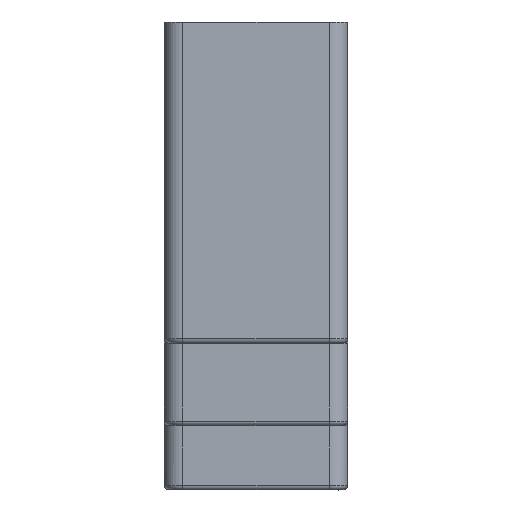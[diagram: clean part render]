
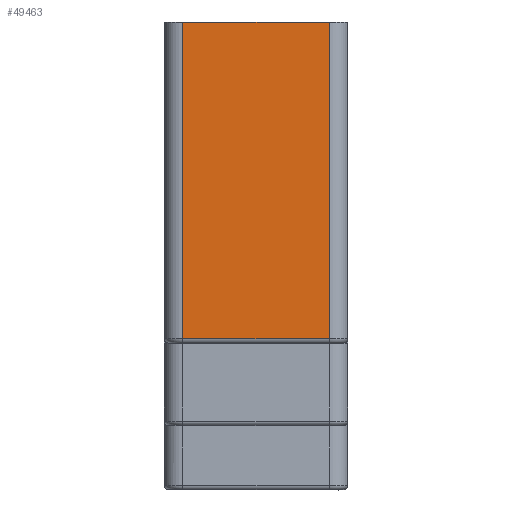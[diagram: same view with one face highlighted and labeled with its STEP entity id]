
A CAD part, left-side view. The second image highlights one B-rep face of the part: STEP entity #49463.
In plain terms, the highlighted planar face has unit normal (-1, 0, 0).
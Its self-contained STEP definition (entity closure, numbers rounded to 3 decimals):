
#1623 = DIRECTION ( 'NONE',  ( 0., 0., -1. ) ) ;
#3546 = CARTESIAN_POINT ( 'NONE',  ( 0., 18., 0. ) ) ;
#6687 = VECTOR ( 'NONE', #32339, 1000. ) ;
#19431 = ORIENTED_EDGE ( 'NONE', *, *, #25854, .T. ) ;
#25854 = EDGE_CURVE ( 'NONE', #62719, #78816, #56384, .T. ) ;
#27221 = CARTESIAN_POINT ( 'NONE',  ( 0., 18., -34.5 ) ) ;
#29908 = DIRECTION ( 'NONE',  ( -1., 0., 0. ) ) ;
#30987 = CARTESIAN_POINT ( 'NONE',  ( 0., 0., 0. ) ) ;
#31977 = PLANE ( 'NONE',  #85483 ) ;
#32339 = DIRECTION ( 'NONE',  ( 0., -1., 0. ) ) ;
#32728 = VERTEX_POINT ( 'NONE', #57753 ) ;
#33594 = ORIENTED_EDGE ( 'NONE', *, *, #79949, .F. ) ;
#36173 = VERTEX_POINT ( 'NONE', #63704 ) ;
#38428 = EDGE_CURVE ( 'NONE', #62719, #32728, #54777, .T. ) ;
#39064 = VECTOR ( 'NONE', #51764, 1000. ) ;
#42184 = EDGE_LOOP ( 'NONE', ( #33594, #75558, #19431, #52179 ) ) ;
#46609 = CARTESIAN_POINT ( 'NONE',  ( 0., 2., 45.626 ) ) ;
#49463 = ADVANCED_FACE ( 'NONE', ( #84864 ), #31977, .T. ) ;
#51764 = DIRECTION ( 'NONE',  ( 0., -1., 0. ) ) ;
#52179 = ORIENTED_EDGE ( 'NONE', *, *, #86362, .T. ) ;
#54777 = LINE ( 'NONE', #30987, #39064 ) ;
#56384 = LINE ( 'NONE', #73774, #62697 ) ;
#57753 = CARTESIAN_POINT ( 'NONE',  ( 0., 2., 0. ) ) ;
#58625 = DIRECTION ( 'NONE',  ( 0., 0., 1. ) ) ;
#60162 = LINE ( 'NONE', #66850, #6687 ) ;
#62697 = VECTOR ( 'NONE', #1623, 1000. ) ;
#62719 = VERTEX_POINT ( 'NONE', #3546 ) ;
#63704 = CARTESIAN_POINT ( 'NONE',  ( 0., 2., -34.5 ) ) ;
#66018 = DIRECTION ( 'NONE',  ( 0., 0., -1. ) ) ;
#66850 = CARTESIAN_POINT ( 'NONE',  ( 0., 0., -34.5 ) ) ;
#73774 = CARTESIAN_POINT ( 'NONE',  ( 0., 18., -35. ) ) ;
#75558 = ORIENTED_EDGE ( 'NONE', *, *, #38428, .F. ) ;
#76527 = CARTESIAN_POINT ( 'NONE',  ( 0., 0., -35. ) ) ;
#78816 = VERTEX_POINT ( 'NONE', #27221 ) ;
#79949 = EDGE_CURVE ( 'NONE', #32728, #36173, #84558, .T. ) ;
#84558 = LINE ( 'NONE', #46609, #86636 ) ;
#84864 = FACE_OUTER_BOUND ( 'NONE', #42184, .T. ) ;
#85483 = AXIS2_PLACEMENT_3D ( 'NONE', #76527, #29908, #58625 ) ;
#86362 = EDGE_CURVE ( 'NONE', #78816, #36173, #60162, .T. ) ;
#86636 = VECTOR ( 'NONE', #66018, 1000. ) ;
